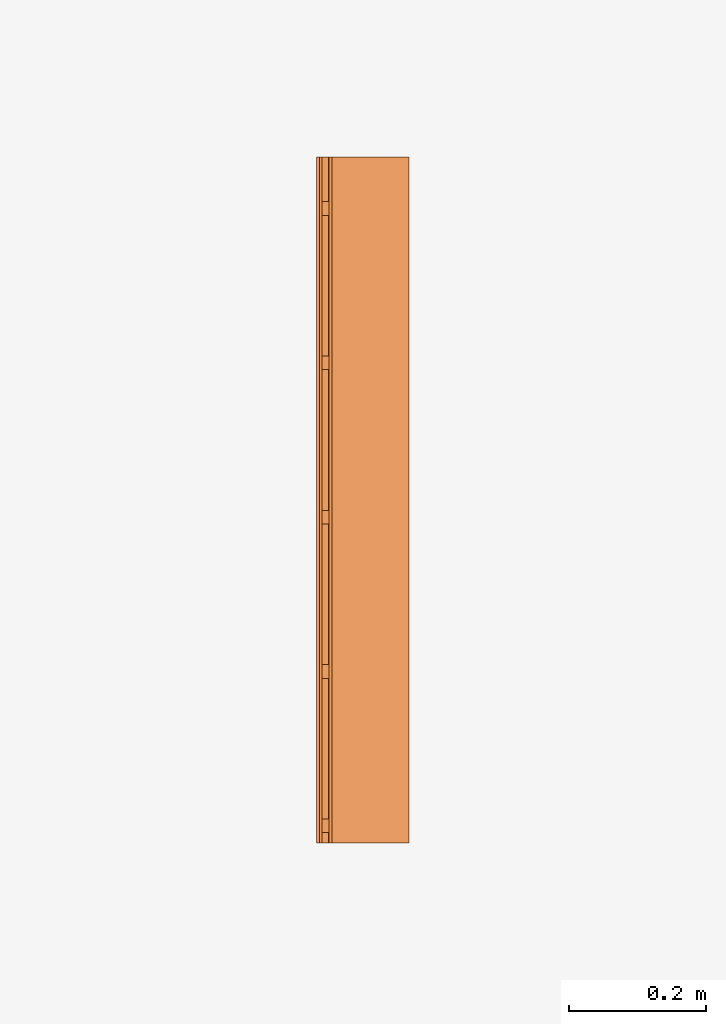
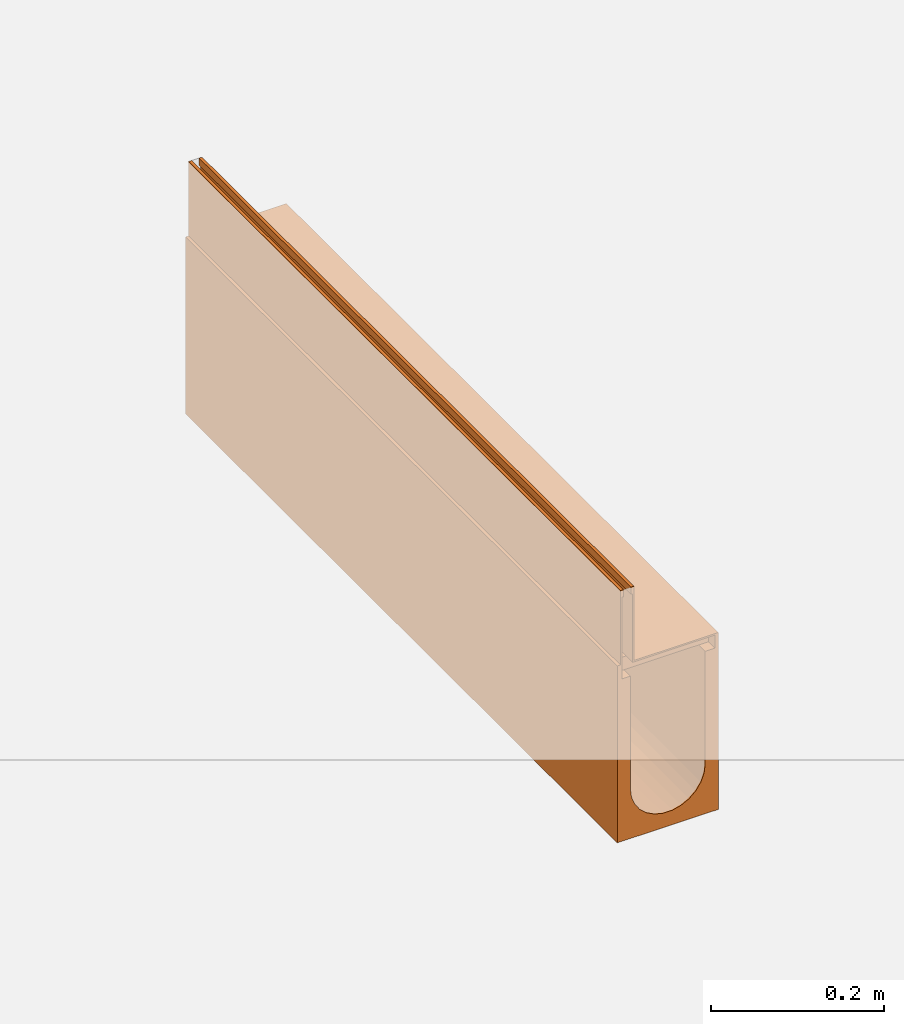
# One storey, part 2 of 2: 1 proxy.
"""IFC2X3 building model written with IfcOpenShell, lengths in millimetres."""

from ifc_helpers import new_model, entity, si_unit, converted_unit, direction, frame, frame_2d, origin, place, context, subcontext, project, spatial, polyline, circle_curve, parameter, trimmed, segment, composite_curve, outline, extrude, source, transform, mapped, material, material_list, element, save


model = new_model("IFC2X3")

# Units and contexts
model_context = context("Model", 3, precision=1e-06, world=origin(), true_north=direction((2.0, 6.12303176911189e-17, 1.0)))
context_of_model = context(None, 3, precision=1e-06, world=origin(), true_north=direction((2.0, 6.12303176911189e-17, 1.0)))
body_context = subcontext(model_context, "Body", "Model", "MODEL_VIEW")
ifc_project = project(units=[si_unit("LENGTHUNIT", "METRE", prefix="MILLI"), si_unit("AREAUNIT", "SQUARE_METRE", prefix="MILLI"), si_unit("VOLUMEUNIT", "CUBIC_METRE", prefix="MILLI"), converted_unit("PLANEANGLEUNIT", "DEGREE", entity("IfcRatioMeasure", 0.0174532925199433), si_unit("PLANEANGLEUNIT", "RADIAN"), dimensions=[0, 0, 0, 0, 0, 0, 0]), si_unit("TIMEUNIT", "SECOND")], contexts=[model_context, context_of_model])

# Site, building, storey
site_placement = place(None, origin())
site = spatial("IfcSite", under=ifc_project, at=site_placement, Name="Default", CompositionType="ELEMENT")
building_placement = place(site_placement, origin())
building = spatial("IfcBuilding", under=site, at=building_placement, CompositionType="ELEMENT")
storey_placement = place(building_placement, origin())
storey = spatial("IfcBuildingStorey", under=building, at=storey_placement, Name="Level 1", CompositionType="ELEMENT", Elevation=0.0)

# Proxy
ifc_material_1 = material(Name="Vienite® Synthetic Resin Concrete")
ifc_material_2 = material(Name="Stainless Steel (F)")
ifc_material_list = material_list([ifc_material_1, ifc_material_2])
shared_shape = source(origin(), body_context, "Body", "SweptSolid", [
    extrude(outline(composite_curve([segment(polyline([(-63.25, -58.0), (-50.0, -58.0)]), True, "CONTINUOUS"), segment(polyline([(-50.0, -58.0), (-50.0, 101.499999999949)]), True, "CONTINUOUS"), segment(trimmed(circle_curve(frame_2d((0.0, 101.499999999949), x_axis=(1.0, 0.0)), 50.0000000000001), [parameter(0.0)], [parameter(180.0)], True, "PARAMETER"), False, "CONTINUOUS"), segment(polyline([(50.0, 101.499999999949), (50.0, -58.0)]), True, "CONTINUOUS"), segment(polyline([(50.0, -58.0), (63.2499999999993, -58.0)]), True, "CONTINUOUS"), segment(polyline([(63.2499999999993, -58.0), (63.2499999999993, -78.4999999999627)]), True, "CONTINUOUS"), segment(polyline([(63.2499999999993, -78.4999999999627), (67.5, -78.4999999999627)]), True, "CONTINUOUS"), segment(polyline([(67.5, -78.4999999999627), (67.5000000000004, 171.499999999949)]), True, "CONTINUOUS"), segment(polyline([(67.5000000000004, 171.499999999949), (-67.4999999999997, 171.499999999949)]), True, "CONTINUOUS"), segment(polyline([(-67.4999999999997, 171.499999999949), (-67.5, -78.5000000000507)]), True, "CONTINUOUS"), segment(polyline([(-67.5, -78.5000000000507), (-63.25, -78.4999999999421)]), True, "CONTINUOUS"), segment(polyline([(-63.25, -78.4999999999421), (-63.25, -58.0)]), True, "CONTINUOUS")], self_intersect=False)), frame((0.0, 0.0, -183.500000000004), z_axis=(0.0, 1.0, 0.0), x_axis=(1.0, 0.0, 0.0)), (0.0, 0.0, 1.0), 1000.0),
    extrude(outline(polyline([(-9.24999999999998, -10.0), (9.25000000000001, -10.0), (9.24999999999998, 10.0), (-9.25000000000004, 10.0), (-9.24999999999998, -10.0)]), holes=[polyline([(7.25000000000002, -8.0), (-7.25000000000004, -8.0), (-7.25000000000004, 8.0), (7.24999999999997, 8.0), (7.25000000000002, -8.0)])]), frame((-61.2500000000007, 25.0, -116.249999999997), z_axis=(1.0, 0.0, 0.0), x_axis=(0.0, 0.0, -1.0)), (0.0, 0.0, 1.0), 124.5),
    extrude(outline(polyline([(-9.24999999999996, -10.0), (9.25000000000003, -10.0), (9.24999999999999, 10.0), (-9.25000000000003, 10.0), (-9.24999999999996, -10.0)]), holes=[polyline([(7.25000000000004, -8.0), (-7.25000000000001, -8.0), (-7.25000000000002, 8.0), (7.24999999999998, 8.0), (7.25000000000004, -8.0)])]), frame((-61.2500000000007, 250.0, -116.249999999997), z_axis=(1.0, 0.0, 0.0), x_axis=(0.0, 0.0, -1.0)), (0.0, 0.0, 1.0), 124.5),
    extrude(outline(polyline([(-9.24999999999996, -10.0), (9.25000000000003, -10.0), (9.24999999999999, 10.0), (-9.25000000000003, 10.0), (-9.24999999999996, -10.0)]), holes=[polyline([(7.25000000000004, -8.0), (-7.25000000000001, -8.0), (-7.25000000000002, 8.0), (7.24999999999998, 8.0), (7.25000000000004, -8.0)])]), frame((-61.2500000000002, 475.0, -116.249999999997), z_axis=(1.0, 0.0, 0.0), x_axis=(0.0, 0.0, -1.0)), (0.0, 0.0, 1.0), 124.5),
    extrude(outline(polyline([(45.5, -29.6250000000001), (55.5, -29.6250000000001), (55.5, -25.6249999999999), (-49.5, -25.6249999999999), (-49.5000000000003, 82.875), (-51.5, 82.875), (-51.4999999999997, -27.625), (45.5, -27.625), (45.5, -29.6250000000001)])), frame((-19.6250000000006, 0.0, -55.4999999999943), z_axis=(0.0, 1.0, 0.0), x_axis=(0.0, 0.0, 1.0)), (0.0, 0.0, 1.0), 1000.0),
    extrude(outline(polyline([(-80.3333333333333, -2.0), (45.1666666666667, -2.0), (45.1666666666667, 2.0), (35.1666666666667, 2.0), (35.1666666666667, 0.0), (-80.3333333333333, 0.0), (-80.3333333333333, -2.0)])), frame((-61.2500000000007, 0.0, -45.166666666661), z_axis=(0.0, 1.0, 0.0), x_axis=(0.0, 0.0, 1.0)), (0.0, 0.0, 1.0), 1000.0),
    extrude(outline(polyline([(-9.25000000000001, -10.0), (9.24999999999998, -10.0), (9.25000000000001, 10.0), (-9.25000000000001, 10.0), (-9.25000000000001, -10.0)]), holes=[polyline([(7.24999999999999, -8.0), (-7.25000000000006, -8.0), (-7.25000000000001, 8.0), (7.24999999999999, 8.0), (7.24999999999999, -8.0)])]), frame((-61.2500000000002, 700.0, -116.249999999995), z_axis=(1.0, 0.0, 0.0), x_axis=(0.0, 0.0, -1.0)), (0.0, 0.0, 1.0), 124.5),
    extrude(outline(polyline([(-9.24999999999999, -10.0), (9.24999999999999, -10.0), (9.25000000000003, 10.0), (-9.24999999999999, 10.0), (-9.24999999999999, -10.0)]), holes=[polyline([(7.25000000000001, -8.0), (-7.25000000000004, -8.0), (-7.24999999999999, 8.0), (7.25000000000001, 8.0), (7.25000000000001, -8.0)])]), frame((-61.2499999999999, 925.0, -116.249999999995), z_axis=(1.0, 0.0, 0.0), x_axis=(0.0, 0.0, -1.0)), (0.0, 0.0, 1.0), 124.5),
])
proxy_placement = place(storey_placement, frame((0.0, -230.0, 0.0)))
element("IfcBuildingElementProxy", 1, at=proxy_placement, inside=storey, material=ifc_material_list, Name="Civil-Drainage-Channel-ACO-MultiDrain-M100DS-Brickslot-Channel-System:24200 - No 20.0 Constant Depth Channel - 1000mm LG - Invert Depth 230mm:24200 - No 20.0 Constant Depth Channel - 1000mm LG - Invert Depth 230mm", ObjectType="24200 - No 20.0 Constant Depth Channel - 1000mm LG - Invert Depth 230mm", CompositionType="ELEMENT", context=body_context, shape_type="MappedRepresentation", body=[
    mapped(shared_shape, transform((0.0, 0.0, 0.0), scale=1.0)),
])

save(model, "model.ifc")
